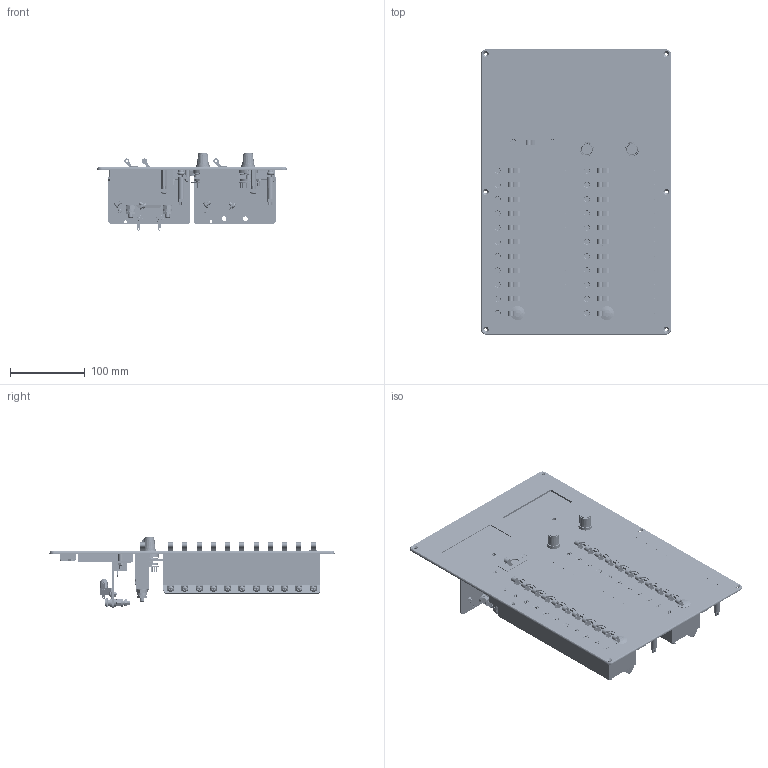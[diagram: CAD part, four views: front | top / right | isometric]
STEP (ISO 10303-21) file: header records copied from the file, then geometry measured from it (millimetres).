
FILE_DESCRIPTION((''),'2;1');
FILE_NAME('11010-0HX_3D.stp','2011-05-04T10:49:24',(''),(''),'Mechanical Desktop 2008','Mechanical Desktop 2008',', , ');
FILE_SCHEMA(('CONFIG_CONTROL_DESIGN'));
Length unit declared in the file: inch
Products named in the file (85): 11010-0HX_3D; 12340-0D1_3D; 12340-0D1_3DA; 576-0816-0_3D; 576-0816-0_3DA; 576-1001-0_3D; 576-1001-0_3DA; 754-0605-1_3DA; 754-0605-1_3D; 11906-0D1_3DA; 11906-0D1_3D; 13225-0N1_3DA; 13225-0N1_3D; 640-1026-0_3D; 640-1026-0_3DA; 754-0604-5_3DA; 754-0604-5_3D; 578-2800-0_3D; 578-2800-0_3DA; 12291-1B1_3D; 12291-1B1_3DA; 12291-3B1_3D; 12291-3B1_3DA; 613-5050-0_3DA; 613-5050-0_3D; 740-0601-2_3D; 740-0601-2_3DA; 754-0608-2_3D; 754-0608-2_3DA; 754-0608-1_3DA; 754-0608-1_3D; 12300-9N1_3DA; 12300-9N1_3D; 568-0051-1_3DA; 568-0051-1_3D; 568-0101-2_3D; 568-0101-2_3DA; 568-0151-2_3DA; 568-0151-2_3D; 568-0201-2_3DA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
Assembly tree (297 placements, depth 3):
  11010-0HX_3D
    12340-0D1_3D
      12340-0D1_3DA
    576-0816-0_3D
      576-0816-0_3DA
    576-1001-0_3D
      576-1001-0_3DA
    754-0605-1_3DA  x4
      754-0605-1_3D
    11906-0D1_3DA  x2
      11906-0D1_3D
    13225-0N1_3DA  x4
      13225-0N1_3D
    640-1026-0_3D  x2
      640-1026-0_3DA
    754-0604-5_3DA  x6
      754-0604-5_3D
    578-2800-0_3D  x23
      578-2800-0_3DA
    12291-1B1_3D
      12291-1B1_3DA
    12291-3B1_3D
      12291-3B1_3DA
    613-5050-0_3DA
      613-5050-0_3D
    740-0601-2_3D  x6
      740-0601-2_3DA
    754-0608-2_3D  x6
      754-0608-2_3DA
    754-0608-1_3DA  x6
      754-0608-1_3D
    12300-9N1_3DA  x2
      12300-9N1_3D
    568-0051-1_3DA  x5
      568-0051-1_3D
    568-0101-2_3D  x5
      568-0101-2_3DA
    568-0151-2_3DA  x6
      568-0151-2_3D
    568-0201-2_3DA  x6
      568-0201-2_3D
    999-0625-0_3D  x2
      999-0625-0_3DA
    12151-1B1_3D  x2
      12151-1B1_3DA
    718-0804-2_3DA  x44
      718-0804-2_3D
    564-1101-2_3D
      564-1101-2_3DA
    970-3001-1_3D  x4
      970-3001-1_3DA
    740-1001-2_3D  x6
      740-1001-2_3DA
    573-0502-9_3D
      573-0502-9_3DA
    742-1001-2_3D  x4
      742-1001-2_3DA
    735-1032-2_3D  x6
      735-1032-2_3DA
    638-0030-0_3DA  x2
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Bounding box: 254 x 381 x 103.12 mm (x, y, z)
Volume: 1597283.8 mm3; surface area: 604128.7 mm2
Topology: 255 solids, 279 shells, 7257 faces, 17768 edges, 11431 vertices
Faces by surface type: plane 3214, cylinder 2679, cone 866, sphere 226, torus 225, bspline 47
Entity records: 69498 total; most frequent: CARTESIAN_POINT 13125, DIRECTION 12351, ORIENTED_EDGE 10692, EDGE_CURVE 5346, AXIS2_PLACEMENT_3D 4791, VERTEX_POINT 3429, VECTOR 2769, LINE 2769
